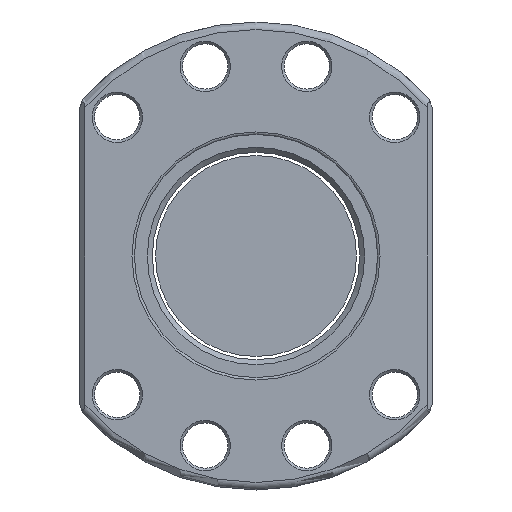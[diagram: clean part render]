
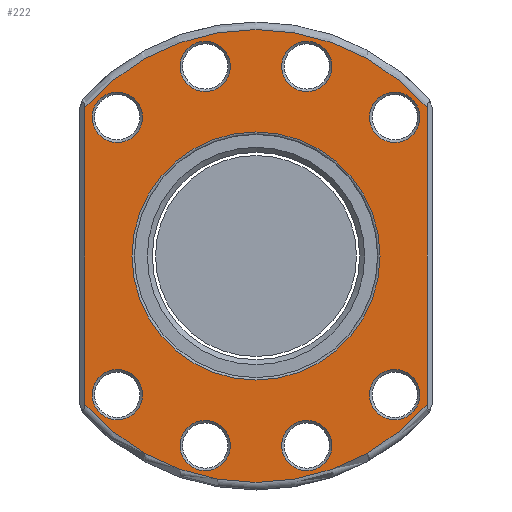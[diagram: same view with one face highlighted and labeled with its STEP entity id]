
A CAD part, front view. The second image highlights one B-rep face of the part: STEP entity #222.
In plain terms, the highlighted planar face has unit normal (0, -1, 0).
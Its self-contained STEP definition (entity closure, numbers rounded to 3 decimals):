
#39=LINE('',#1646,#63);
#40=LINE('',#1650,#64);
#63=VECTOR('',#1347,1.);
#64=VECTOR('',#1350,1.);
#167=PLANE('',#1141);
#222=ADVANCED_FACE('',(#337,#338,#339,#340,#341,#342,#343,#344,#345,#346),
#167,.F.);
#337=FACE_BOUND('',#469,.T.);
#338=FACE_BOUND('',#470,.T.);
#339=FACE_BOUND('',#471,.T.);
#340=FACE_BOUND('',#472,.T.);
#341=FACE_BOUND('',#473,.T.);
#342=FACE_BOUND('',#474,.T.);
#343=FACE_BOUND('',#475,.T.);
#344=FACE_BOUND('',#476,.T.);
#345=FACE_BOUND('',#477,.T.);
#346=FACE_BOUND('',#478,.T.);
#469=EDGE_LOOP('',(#617));
#470=EDGE_LOOP('',(#618));
#471=EDGE_LOOP('',(#619));
#472=EDGE_LOOP('',(#620));
#473=EDGE_LOOP('',(#621));
#474=EDGE_LOOP('',(#622));
#475=EDGE_LOOP('',(#623));
#476=EDGE_LOOP('',(#624));
#477=EDGE_LOOP('',(#625));
#478=EDGE_LOOP('',(#626,#627,#628,#629));
#617=ORIENTED_EDGE('',*,*,#920,.T.);
#618=ORIENTED_EDGE('',*,*,#921,.T.);
#619=ORIENTED_EDGE('',*,*,#922,.T.);
#620=ORIENTED_EDGE('',*,*,#923,.T.);
#621=ORIENTED_EDGE('',*,*,#924,.T.);
#622=ORIENTED_EDGE('',*,*,#925,.T.);
#623=ORIENTED_EDGE('',*,*,#926,.T.);
#624=ORIENTED_EDGE('',*,*,#927,.T.);
#625=ORIENTED_EDGE('',*,*,#928,.T.);
#626=ORIENTED_EDGE('',*,*,#929,.T.);
#627=ORIENTED_EDGE('',*,*,#930,.T.);
#628=ORIENTED_EDGE('',*,*,#931,.T.);
#629=ORIENTED_EDGE('',*,*,#932,.T.);
#823=VERTEX_POINT('',#1626);
#824=VERTEX_POINT('',#1628);
#825=VERTEX_POINT('',#1630);
#826=VERTEX_POINT('',#1632);
#827=VERTEX_POINT('',#1634);
#828=VERTEX_POINT('',#1636);
#829=VERTEX_POINT('',#1638);
#830=VERTEX_POINT('',#1640);
#831=VERTEX_POINT('',#1642);
#832=VERTEX_POINT('',#1644);
#833=VERTEX_POINT('',#1645);
#834=VERTEX_POINT('',#1647);
#835=VERTEX_POINT('',#1649);
#920=EDGE_CURVE('',#823,#823,#1033,.T.);
#921=EDGE_CURVE('',#824,#824,#1034,.T.);
#922=EDGE_CURVE('',#825,#825,#1035,.T.);
#923=EDGE_CURVE('',#826,#826,#1036,.T.);
#924=EDGE_CURVE('',#827,#827,#1037,.T.);
#925=EDGE_CURVE('',#828,#828,#1038,.T.);
#926=EDGE_CURVE('',#829,#829,#1039,.T.);
#927=EDGE_CURVE('',#830,#830,#1040,.T.);
#928=EDGE_CURVE('',#831,#831,#1041,.T.);
#929=EDGE_CURVE('',#832,#833,#1042,.T.);
#930=EDGE_CURVE('',#833,#834,#39,.T.);
#931=EDGE_CURVE('',#834,#835,#1043,.T.);
#932=EDGE_CURVE('',#835,#832,#40,.T.);
#1033=CIRCLE('',#1130,5.);
#1034=CIRCLE('',#1131,5.);
#1035=CIRCLE('',#1132,5.);
#1036=CIRCLE('',#1133,5.);
#1037=CIRCLE('',#1134,5.);
#1038=CIRCLE('',#1135,5.);
#1039=CIRCLE('',#1136,5.);
#1040=CIRCLE('',#1137,5.);
#1041=CIRCLE('',#1138,24.65);
#1042=CIRCLE('',#1139,45.);
#1043=CIRCLE('',#1140,45.);
#1130=AXIS2_PLACEMENT_3D('',#1625,#1327,#1328);
#1131=AXIS2_PLACEMENT_3D('',#1627,#1329,#1330);
#1132=AXIS2_PLACEMENT_3D('',#1629,#1331,#1332);
#1133=AXIS2_PLACEMENT_3D('',#1631,#1333,#1334);
#1134=AXIS2_PLACEMENT_3D('',#1633,#1335,#1336);
#1135=AXIS2_PLACEMENT_3D('',#1635,#1337,#1338);
#1136=AXIS2_PLACEMENT_3D('',#1637,#1339,#1340);
#1137=AXIS2_PLACEMENT_3D('',#1639,#1341,#1342);
#1138=AXIS2_PLACEMENT_3D('',#1641,#1343,#1344);
#1139=AXIS2_PLACEMENT_3D('',#1643,#1345,#1346);
#1140=AXIS2_PLACEMENT_3D('',#1648,#1348,#1349);
#1141=AXIS2_PLACEMENT_3D('',#1651,#1351,#1352);
#1327=DIRECTION('',(0.,1.,0.));
#1328=DIRECTION('',(0.,0.,1.));
#1329=DIRECTION('',(0.,1.,0.));
#1330=DIRECTION('',(0.,0.,1.));
#1331=DIRECTION('',(0.,1.,0.));
#1332=DIRECTION('',(0.,0.,1.));
#1333=DIRECTION('',(0.,1.,0.));
#1334=DIRECTION('',(0.,0.,1.));
#1335=DIRECTION('',(0.,1.,0.));
#1336=DIRECTION('',(0.,0.,1.));
#1337=DIRECTION('',(0.,1.,0.));
#1338=DIRECTION('',(0.,0.,1.));
#1339=DIRECTION('',(0.,1.,0.));
#1340=DIRECTION('',(0.,0.,1.));
#1341=DIRECTION('',(0.,1.,0.));
#1342=DIRECTION('',(0.,0.,1.));
#1343=DIRECTION('',(0.,1.,0.));
#1344=DIRECTION('',(0.,0.,1.));
#1345=DIRECTION('',(0.,-1.,0.));
#1346=DIRECTION('',(0.,0.,1.));
#1347=DIRECTION('',(0.,0.,1.));
#1348=DIRECTION('',(0.,-1.,0.));
#1349=DIRECTION('',(0.,0.,1.));
#1350=DIRECTION('',(0.,0.,-1.));
#1351=DIRECTION('',(0.,1.,0.));
#1352=DIRECTION('',(0.,0.,1.));
#1625=CARTESIAN_POINT('',(-10.094,0.,37.671));
#1626=CARTESIAN_POINT('',(-10.094,0.,42.671));
#1627=CARTESIAN_POINT('',(-10.094,0.,-37.671));
#1628=CARTESIAN_POINT('',(-10.094,0.,-32.671));
#1629=CARTESIAN_POINT('',(10.094,0.,37.671));
#1630=CARTESIAN_POINT('',(10.094,0.,42.671));
#1631=CARTESIAN_POINT('',(-27.577,0.,27.577));
#1632=CARTESIAN_POINT('',(-27.577,0.,32.577));
#1633=CARTESIAN_POINT('',(10.094,0.,-37.671));
#1634=CARTESIAN_POINT('',(10.094,0.,-32.671));
#1635=CARTESIAN_POINT('',(-27.577,0.,-27.577));
#1636=CARTESIAN_POINT('',(-27.577,0.,-22.577));
#1637=CARTESIAN_POINT('',(27.577,0.,-27.577));
#1638=CARTESIAN_POINT('',(27.577,0.,-22.577));
#1639=CARTESIAN_POINT('',(27.577,0.,27.577));
#1640=CARTESIAN_POINT('',(27.577,0.,32.577));
#1641=CARTESIAN_POINT('',(0.,0.,0.));
#1642=CARTESIAN_POINT('',(0.,0.,24.65));
#1643=CARTESIAN_POINT('',(0.,0.,0.));
#1644=CARTESIAN_POINT('',(-34.,0.,-29.479));
#1645=CARTESIAN_POINT('',(34.,0.,-29.479));
#1646=CARTESIAN_POINT('',(34.,0.,28.284));
#1647=CARTESIAN_POINT('',(34.,0.,29.479));
#1648=CARTESIAN_POINT('',(0.,0.,0.));
#1649=CARTESIAN_POINT('',(-34.,0.,29.479));
#1650=CARTESIAN_POINT('',(-34.,0.,-28.284));
#1651=CARTESIAN_POINT('',(0.,0.,0.));
